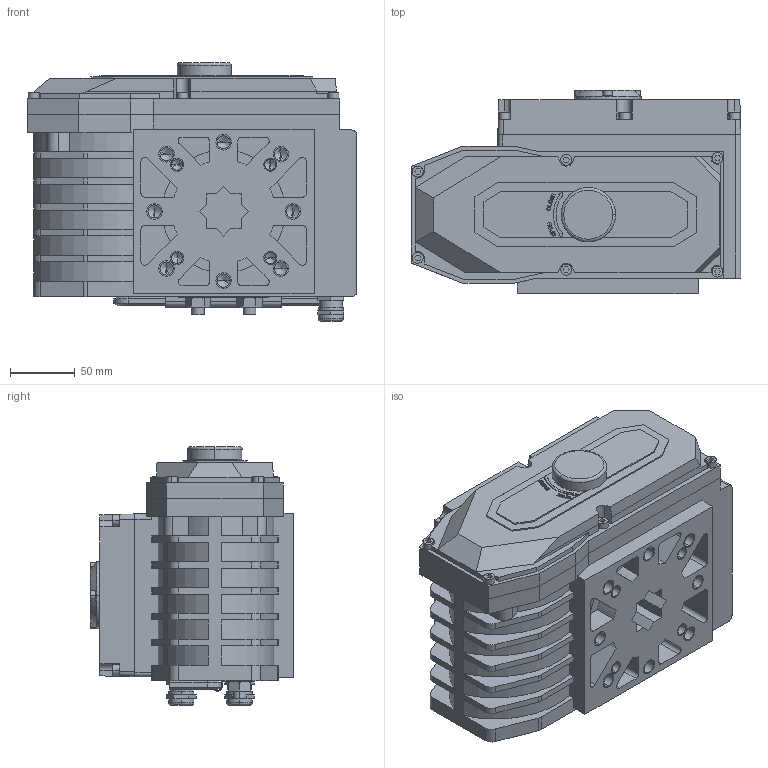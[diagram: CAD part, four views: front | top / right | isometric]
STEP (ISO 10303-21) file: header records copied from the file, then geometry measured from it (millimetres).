
FILE_DESCRIPTION((''),'2;1');
FILE_NAME('ELECTROPRIVOD_ASM','2024-09-01T',('AMD'),(''),'PRO/ENGINEER BY PARAMETRIC TECHNOLOGY CORPORATION, 2008020','PRO/ENGINEER BY PARAMETRIC TECHNOLOGY CORPORATION, 2008020','');
FILE_SCHEMA(('CONFIG_CONTROL_DESIGN'));
Length unit declared in the file: millimetre
Products named in the file (9): DET_1; V-11738-M5; V-11738-M4; DET_2; KREPLENIE; KLUCH; DET_3; G-5915-M10; ELECTROPRIVOD_ASM
Assembly tree (23 placements, depth 2):
  ELECTROPRIVOD_ASM
    DET_1
    V-11738-M5  x12
    V-11738-M4  x4
    DET_2
    KREPLENIE
    KLUCH
    DET_3
    G-5915-M10  x2
Bounding box: 255 x 157.5 x 200 mm (x, y, z)
Volume: 4875593.6 mm3; surface area: 376596.8 mm2
Topology: 23 solids, 53 shells, 1142 faces, 2957 edges, 1954 vertices
Faces by surface type: plane 807, cylinder 283, cone 46, torus 6
Entity records: 27836 total; most frequent: CARTESIAN_POINT 5067, ORIENTED_EDGE 4650, DIRECTION 4630, EDGE_CURVE 2357, VECTOR 1860, LINE 1860, VERTEX_POINT 1562, AXIS2_PLACEMENT_3D 1385
